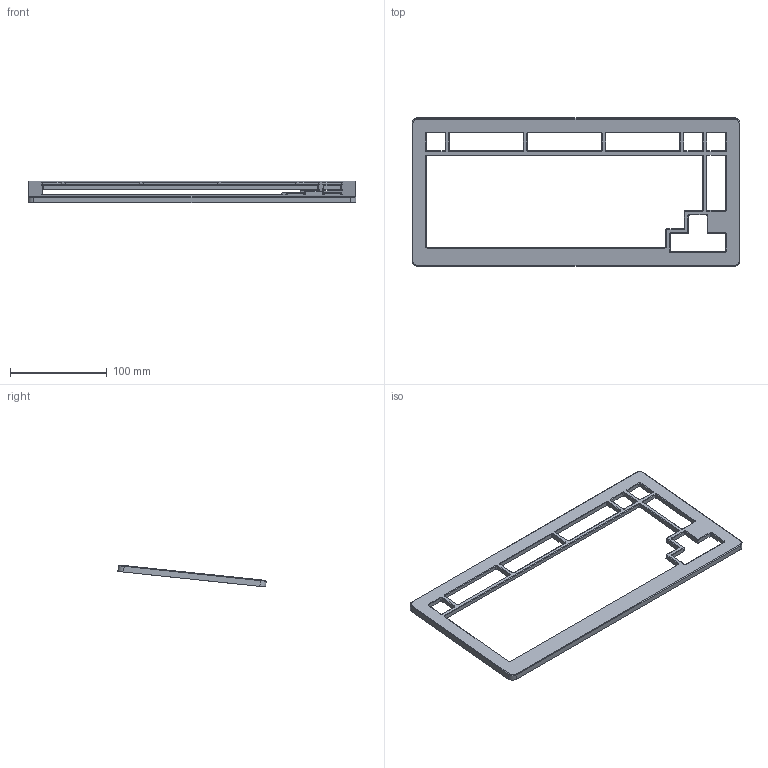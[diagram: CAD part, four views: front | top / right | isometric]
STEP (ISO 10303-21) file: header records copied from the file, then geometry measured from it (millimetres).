
FILE_DESCRIPTION(('Open CASCADE Model'),'2;1');
FILE_NAME('Open CASCADE Shape Model','2026-11-03T16:43:32',('Author'),( 'Open CASCADE'),'Open CASCADE STEP processor 7.9','Open CASCADE 7.9' ,'Unknown');
FILE_SCHEMA(('AUTOMOTIVE_DESIGN { 1 0 10303 214 1 1 1 1 }'));
Length unit declared in the file: millimetre
Products named in the file (1): Open CASCADE STEP translator 7.9 1
Bounding box: 339.56 x 153.6 x 22.71 mm (x, y, z)
Volume: 102966.9 mm3; surface area: 52804.1 mm2
Topology: 1 solids, 1 shells, 299 faces, 768 edges, 480 vertices
Faces by surface type: plane 159, cylinder 92, cone 48
Full cylindrical faces by diameter (mm): 4 x8
Entity records: 19124 total; most frequent: CARTESIAN_POINT 3300, DIRECTION 3100, LINE 1888, VECTOR 1888, ORIENTED_EDGE 1536, PCURVE 1536, DEFINITIONAL_REPRESENTATION 1536, EDGE_CURVE 768
